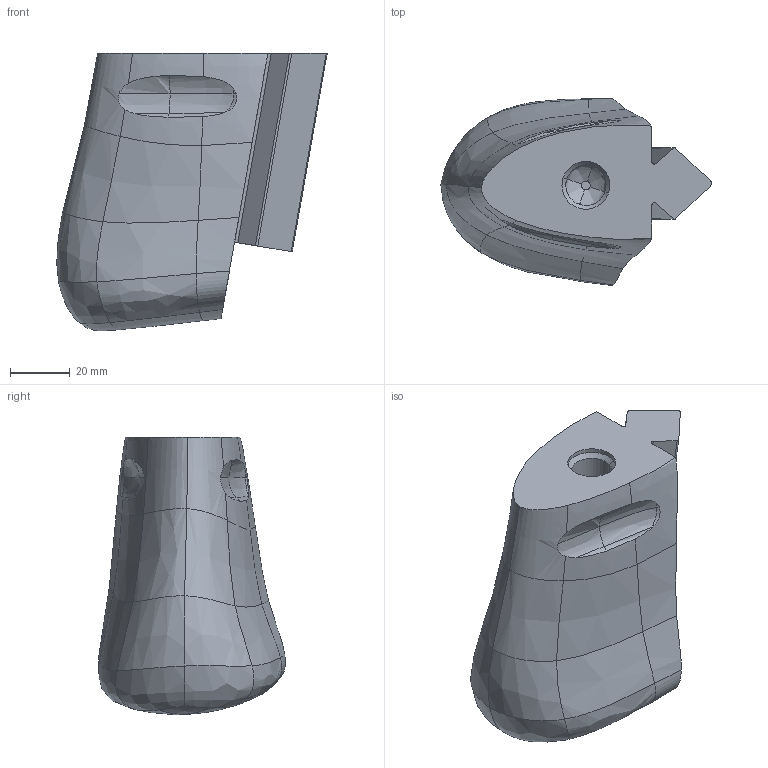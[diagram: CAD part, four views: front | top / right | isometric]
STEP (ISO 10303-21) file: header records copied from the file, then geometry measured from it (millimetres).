
FILE_DESCRIPTION(/* description */ (''),/* implementation_level */ '2;1');
FILE_NAME(/* name */ '40-sample-heel-10mm',/* time_stamp */ '2026-02-27T14:15:10-07:00',/* author */ (''),/* organization */ (''),/* preprocessor_version */ 'ST-DEVELOPER v19.2',/* originating_system */ 'Rhino 8.28',/* authorisation */ '');
FILE_SCHEMA (('AUTOMOTIVE_DESIGN'));
Length unit declared in the file: millimetre
Products named in the file (1): Document
Bounding box: 90.41 x 62.44 x 92.78 mm (x, y, z)
Volume: 213817.6 mm3; surface area: 25550.2 mm2
Topology: 1 solids, 1 shells, 71 faces, 173 edges, 105 vertices
Faces by surface type: bspline 57, plane 8, cylinder 6
Entity records: 7025 total; most frequent: CARTESIAN_POINT 5740, ORIENTED_EDGE 346, EDGE_CURVE 173, B_SPLINE_CURVE_WITH_KNOTS 140, VERTEX_POINT 105, EDGE_LOOP 72, ADVANCED_FACE 71, FACE_OUTER_BOUND 71
